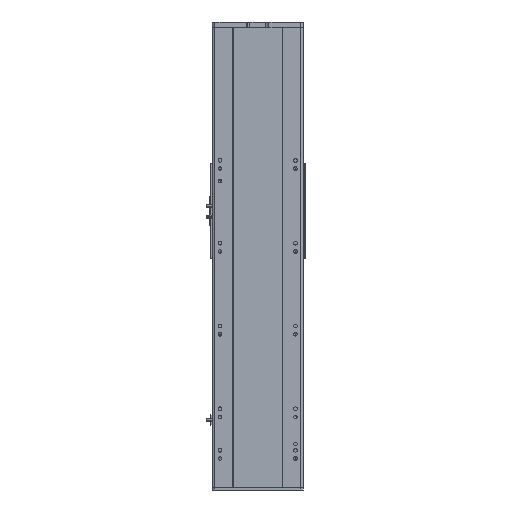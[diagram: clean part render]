
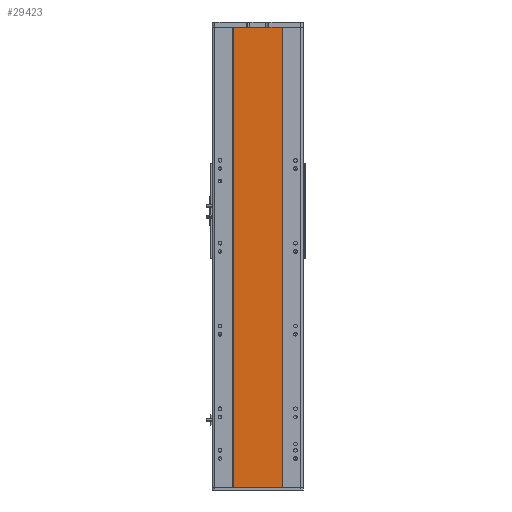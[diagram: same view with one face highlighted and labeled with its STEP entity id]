
A CAD part, front view. The second image highlights one B-rep face of the part: STEP entity #29423.
In plain terms, the highlighted planar face has unit normal (0, -1, 0).
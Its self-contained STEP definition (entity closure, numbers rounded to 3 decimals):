
#577 = ORIENTED_EDGE ( 'NONE', *, *, #4167, .T. ) ;
#1755 = LINE ( 'NONE', #14129, #15686 ) ;
#2574 = CARTESIAN_POINT ( 'NONE',  ( 59., 1., 555.5 ) ) ;
#3951 = DIRECTION ( 'NONE',  ( 0., 0., -1. ) ) ;
#4167 = EDGE_CURVE ( 'NONE', #14259, #8266, #11795, .T. ) ;
#5474 = DIRECTION ( 'NONE',  ( 1., 0., 0. ) ) ;
#5945 = VECTOR ( 'NONE', #3951, 1000. ) ;
#7025 = CARTESIAN_POINT ( 'NONE',  ( -59., 1., 555.5 ) ) ;
#7568 = DIRECTION ( 'NONE',  ( -1., 0., 0. ) ) ;
#7953 = ORIENTED_EDGE ( 'NONE', *, *, #31050, .T. ) ;
#8266 = VERTEX_POINT ( 'NONE', #21879 ) ;
#8930 = DIRECTION ( 'NONE',  ( 0., 0., -1. ) ) ;
#10166 = ORIENTED_EDGE ( 'NONE', *, *, #33651, .F. ) ;
#11070 = AXIS2_PLACEMENT_3D ( 'NONE', #24782, #13732, #7568 ) ;
#11190 = CARTESIAN_POINT ( 'NONE',  ( -59., 1., -555.5 ) ) ;
#11795 = LINE ( 'NONE', #7025, #5945 ) ;
#13732 = DIRECTION ( 'NONE',  ( 0., 1., 0. ) ) ;
#14129 = CARTESIAN_POINT ( 'NONE',  ( -59., 1., 555.5 ) ) ;
#14259 = VERTEX_POINT ( 'NONE', #35789 ) ;
#15686 = VECTOR ( 'NONE', #5474, 1000. ) ;
#15868 = LINE ( 'NONE', #2574, #35040 ) ;
#16721 = VERTEX_POINT ( 'NONE', #27832 ) ;
#17069 = VERTEX_POINT ( 'NONE', #26225 ) ;
#18884 = EDGE_CURVE ( 'NONE', #14259, #17069, #1755, .T. ) ;
#19012 = VECTOR ( 'NONE', #22774, 1000. ) ;
#19901 = ORIENTED_EDGE ( 'NONE', *, *, #18884, .F. ) ;
#21879 = CARTESIAN_POINT ( 'NONE',  ( -59., 1., -555.5 ) ) ;
#22170 = PLANE ( 'NONE',  #11070 ) ;
#22774 = DIRECTION ( 'NONE',  ( 1., 0., 0. ) ) ;
#24782 = CARTESIAN_POINT ( 'NONE',  ( -59., 1., 555.5 ) ) ;
#26225 = CARTESIAN_POINT ( 'NONE',  ( 59., 1., 555.5 ) ) ;
#27832 = CARTESIAN_POINT ( 'NONE',  ( 59., 1., -555.5 ) ) ;
#29423 = ADVANCED_FACE ( 'NONE', ( #29790 ), #22170, .F. ) ;
#29790 = FACE_OUTER_BOUND ( 'NONE', #34357, .T. ) ;
#31050 = EDGE_CURVE ( 'NONE', #8266, #16721, #32420, .T. ) ;
#32420 = LINE ( 'NONE', #11190, #19012 ) ;
#33651 = EDGE_CURVE ( 'NONE', #17069, #16721, #15868, .T. ) ;
#34357 = EDGE_LOOP ( 'NONE', ( #7953, #10166, #19901, #577 ) ) ;
#35040 = VECTOR ( 'NONE', #8930, 1000. ) ;
#35789 = CARTESIAN_POINT ( 'NONE',  ( -59., 1., 555.5 ) ) ;
